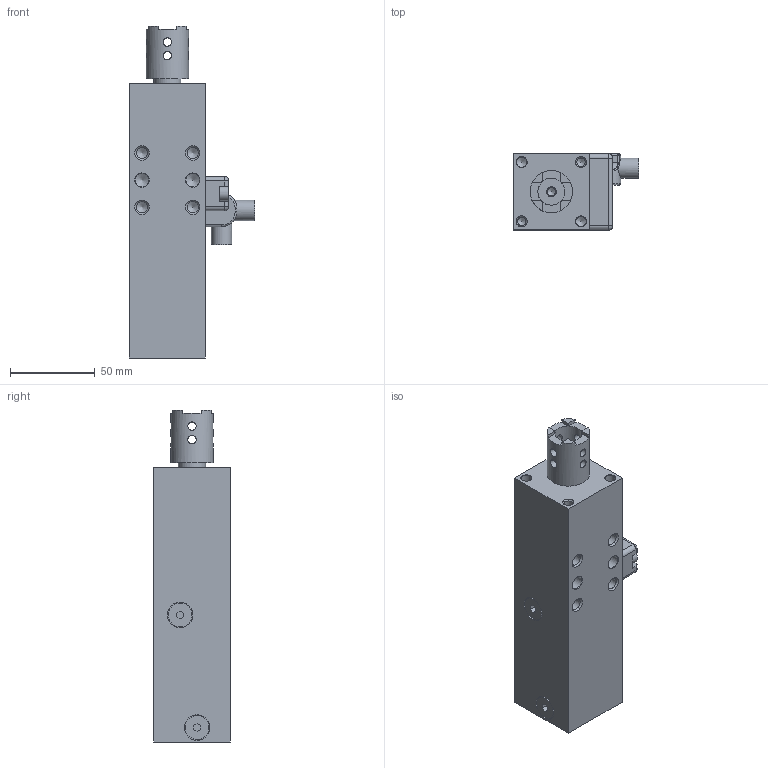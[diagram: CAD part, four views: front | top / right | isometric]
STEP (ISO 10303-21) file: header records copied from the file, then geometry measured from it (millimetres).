
FILE_DESCRIPTION(/* description */ (''),/* implementation_level */ '2;1');
FILE_NAME(/* name */ 'C:\PNX_VAULTFOLDER\Area Tecnica\Disegni\VARIE-3D\Componenti\7000\RP32######\RA32E40G1.stp',/* time_stamp */ '2018-10-30T11:32:10+01:00',/* author */ ('donadda1'),/* organization */ (''),/* preprocessor_version */ 'ST-DEVELOPER v17',/* originating_system */ 'Autodesk Inventor 2019',/* authorisation */ '');
FILE_SCHEMA (('AUTOMOTIVE_DESIGN { 1 0 10303 214 3 1 1 }'));
Length unit declared in the file: millimetre
Products named in the file (5): RA32E40G1; CENTRATORE_32-0040_DE; RA_ASTA_1-0040; ES001; ES001_CONN_90°
Assembly tree (4 placements, depth 2):
  RA32E40G1
    CENTRATORE_32-0040_DE
    RA_ASTA_1-0040
    ES001
    ES001_CONN_90°
Bounding box: 74.1 x 45 x 196 mm (x, y, z)
Volume: 361899.8 mm3; surface area: 65052.1 mm2
Topology: 4 solids, 4 shells, 275 faces, 729 edges, 492 vertices
Faces by surface type: plane 127, cylinder 91, cone 38, bspline 9, torus 8, sphere 2
Full cylindrical faces by diameter (mm): 4.134 x2, 4.917 x7, 5 x8, 5.489 x4, 6 x2, 6.647 x8, 8 x4, 8.5 x4, 8.566 x2, 12 x2, 14 x2, 15 x4, 16 x3, 25 x1
Entity records: 9477 total; most frequent: CARTESIAN_POINT 2307, DIRECTION 1495, ORIENTED_EDGE 1420, EDGE_CURVE 710, AXIS2_PLACEMENT_3D 566, VERTEX_POINT 492, LINE 363, VECTOR 363
